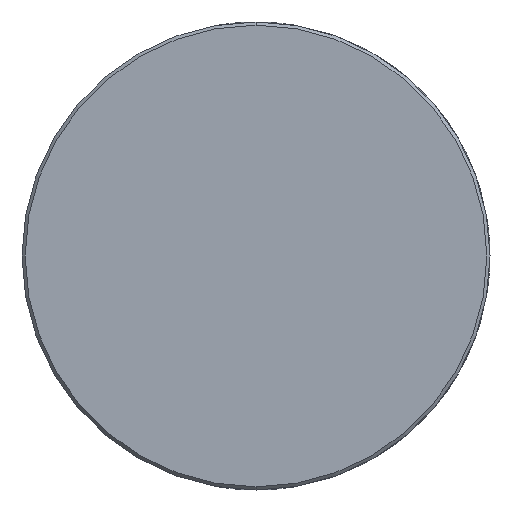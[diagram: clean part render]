
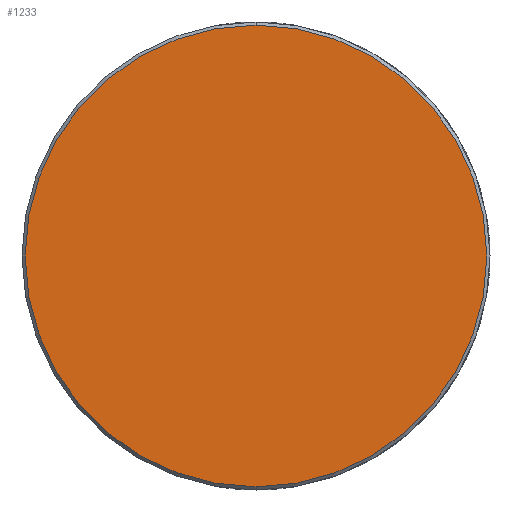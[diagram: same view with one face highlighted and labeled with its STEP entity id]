
A CAD part, front view. The second image highlights one B-rep face of the part: STEP entity #1233.
In plain terms, the highlighted planar face has unit normal (0, -1, 0).
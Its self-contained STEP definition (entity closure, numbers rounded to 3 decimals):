
#1208=CARTESIAN_POINT('',(0.0,-139.348,36.0));
#1209=VERTEX_POINT('',#1208);
#1210=CARTESIAN_POINT('',(0.0,-139.348,-36.0));
#1211=VERTEX_POINT('',#1210);
#1212=CARTESIAN_POINT('',(0.0,-139.348,0.0));
#1213=DIRECTION('',(0.0,-1.0,0.0));
#1214=DIRECTION('',(0.0,0.0,1.0));
#1215=AXIS2_PLACEMENT_3D('',#1212,#1213,#1214);
#1216=CIRCLE('',#1215,36.0);
#1217=EDGE_CURVE('no 1672',#1209,#1211,#1216,.T.);
#1218=ORIENTED_EDGE('',*,*,#1217,.T.);
#1219=CARTESIAN_POINT('',(0.0,-139.348,0.0));
#1220=DIRECTION('',(0.0,-1.0,0.0));
#1221=DIRECTION('',(0.0,0.0,1.0));
#1222=AXIS2_PLACEMENT_3D('',#1219,#1220,#1221);
#1223=CIRCLE('',#1222,36.0);
#1224=EDGE_CURVE('no 1676',#1211,#1209,#1223,.T.);
#1225=ORIENTED_EDGE('',*,*,#1224,.T.);
#1226=EDGE_LOOP('',(#1218,#1225));
#1227=FACE_OUTER_BOUND('',#1226,.T.);
#1228=CARTESIAN_POINT('',(36.5,-139.348,0.0));
#1229=DIRECTION('',(0.0,1.0,0.0));
#1230=DIRECTION('',(0.0,0.0,-1.0));
#1231=AXIS2_PLACEMENT_3D('',#1228,#1229,#1230);
#1232=PLANE('',#1231);
#1233=ADVANCED_FACE('no 1663',(#1227),#1232,.F.);
